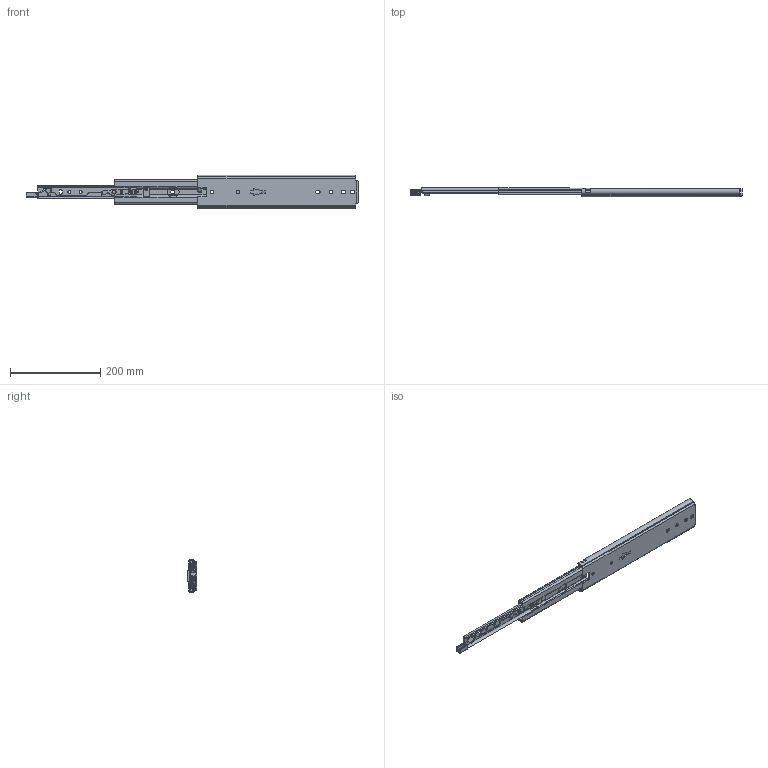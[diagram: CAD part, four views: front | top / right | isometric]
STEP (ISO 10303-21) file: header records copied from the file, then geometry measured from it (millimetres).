
FILE_DESCRIPTION((''),'2;1');
FILE_NAME('DG-76-3S-14ZUO_ASM','2023-05-09T',('jishu015'),(''),'PRO/ENGINEER BY PARAMETRIC TECHNOLOGY CORPORATION, 2010280','PRO/ENGINEER BY PARAMETRIC TECHNOLOGY CORPORATION, 2010280','');
FILE_SCHEMA(('CONFIG_CONTROL_DESIGN'));
Length unit declared in the file: millimetre
Products named in the file (29): KP-76-04WAIKE-1816__; 1076-WAIKEZIDANJIAO16__; WAIK16___ASM; 1076XIAOZHUTIAO-22516__; 16__; 1076XIAOZHUTIAO-17516___ASM; KP-76-04ZHONGGUI1816__; 76CHANGGUIZHONGGUIJIAO16__; 3X6WODIN16__; ZHONGGUIBAIKOU16__; PJ-76-30_; PJ-76-03_; 76-XIAOZHUJIA-11_; GANGZHU-XIAO_; ZHUJIA-XIAO__ASM; ZHONGGUI6___ASM; KP-76-04NEIGUI1816__; PJ-76-31_; DAOGPIAN16__; 1053-3SBANJ01_; JIAO-11_; 76XINSUOKOU_; PJ-338_; PJ-356_; PJ-357_; PJ-336_; M4X4_; NEIGUI16___ASM; DG-76-3S-14ZUO_ASM
Assembly tree (43 placements, depth 4):
  DG-76-3S-14ZUO_ASM
    WAIK16___ASM
      KP-76-04WAIKE-1816__
      1076-WAIKEZIDANJIAO16__  x2
    1076XIAOZHUTIAO-17516___ASM  x2
      1076XIAOZHUTIAO-22516__
      16__
    ZHONGGUI6___ASM
      KP-76-04ZHONGGUI1816__
      76CHANGGUIZHONGGUIJIAO16__
      3X6WODIN16__
      ZHONGGUIBAIKOU16__
      PJ-76-30_
      PJ-76-03_
      ZHUJIA-XIAO__ASM
        76-XIAOZHUJIA-11_
        GANGZHU-XIAO_  x10
    NEIGUI16___ASM
      KP-76-04NEIGUI1816__
      PJ-76-31_
      DAOGPIAN16__
      1053-3SBANJ01_
      JIAO-11_
      76XINSUOKOU_
      PJ-338_
      PJ-356_
      PJ-357_
      PJ-336_
      M4X4_
Bounding box: 737.12 x 20.7 x 75.3 mm (x, y, z)
Volume: 230491 mm3; surface area: 222185.9 mm2
Topology: 44 solids, 44 shells, 1533 faces, 4489 edges, 2895 vertices
Faces by surface type: plane 717, cylinder 570, bspline 92, torus 56, sphere 47, cone 28, extrusion 23
Entity records: 55387 total; most frequent: CARTESIAN_POINT 17347, ORIENTED_EDGE 8282, DIRECTION 7480, EDGE_CURVE 4141, VERTEX_POINT 2711, AXIS2_PLACEMENT_3D 2611, VECTOR 2258, LINE 2235
